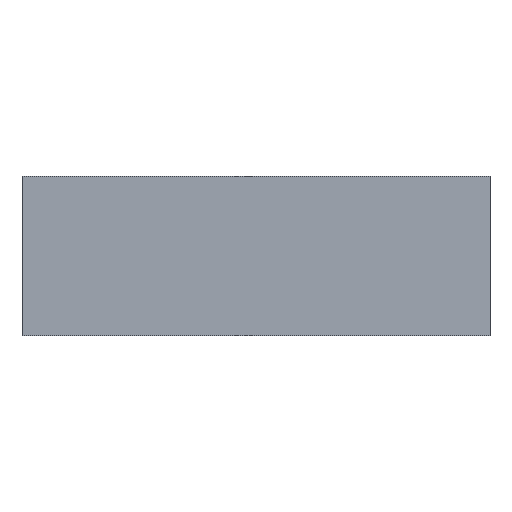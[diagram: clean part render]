
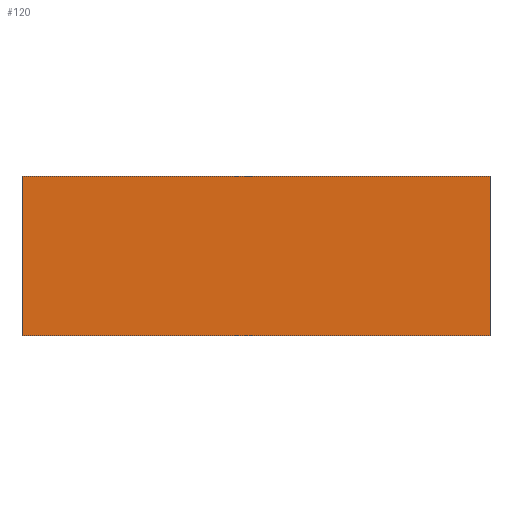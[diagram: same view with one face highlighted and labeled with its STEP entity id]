
A CAD part, front view. The second image highlights one B-rep face of the part: STEP entity #120.
In plain terms, the highlighted planar face has unit normal (0, -1, 0).
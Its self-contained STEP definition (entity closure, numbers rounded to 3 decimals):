
#18 = ORIENTED_EDGE ( 'NONE', *, *, #307, .T. ) ;
#34 = ORIENTED_EDGE ( 'NONE', *, *, #325, .T. ) ;
#39 = FACE_OUTER_BOUND ( 'NONE', #51, .T. ) ;
#50 = LINE ( 'NONE', #141, #292 ) ;
#51 = EDGE_LOOP ( 'NONE', ( #18, #56, #73, #34 ) ) ;
#56 = ORIENTED_EDGE ( 'NONE', *, *, #328, .F. ) ;
#73 = ORIENTED_EDGE ( 'NONE', *, *, #301, .F. ) ;
#97 = LINE ( 'NONE', #155, #102 ) ;
#102 = VECTOR ( 'NONE', #152, 1000. ) ;
#106 = LINE ( 'NONE', #149, #114 ) ;
#114 = VECTOR ( 'NONE', #146, 1000. ) ;
#120 = ADVANCED_FACE ( 'NONE', ( #39 ), #200, .F. ) ;
#129 = VERTEX_POINT ( 'NONE', #176 ) ;
#131 = VERTEX_POINT ( 'NONE', #179 ) ;
#133 = VERTEX_POINT ( 'NONE', #169 ) ;
#135 = DIRECTION ( 'NONE',  ( 0., 0., -1. ) ) ;
#137 = CARTESIAN_POINT ( 'NONE',  ( -176., 0., 120. ) ) ;
#141 = CARTESIAN_POINT ( 'NONE',  ( 176., 0., 120. ) ) ;
#146 = DIRECTION ( 'NONE',  ( 1., 0., 0. ) ) ;
#149 = CARTESIAN_POINT ( 'NONE',  ( -176., 0., 0. ) ) ;
#152 = DIRECTION ( 'NONE',  ( 1., 0., 0. ) ) ;
#155 = CARTESIAN_POINT ( 'NONE',  ( -176., 0., 120. ) ) ;
#162 = CARTESIAN_POINT ( 'NONE',  ( 176., 0., 120. ) ) ;
#169 = CARTESIAN_POINT ( 'NONE',  ( -176., 0., 120. ) ) ;
#176 = CARTESIAN_POINT ( 'NONE',  ( -176., 0., 0. ) ) ;
#179 = CARTESIAN_POINT ( 'NONE',  ( 176., 0., 0. ) ) ;
#189 = DIRECTION ( 'NONE',  ( -1., 0., 0. ) ) ;
#190 = DIRECTION ( 'NONE',  ( 0., 1., 0. ) ) ;
#199 = CARTESIAN_POINT ( 'NONE',  ( -176., 0., 120. ) ) ;
#200 = PLANE ( 'NONE',  #329 ) ;
#225 = DIRECTION ( 'NONE',  ( 0., 0., -1. ) ) ;
#232 = VERTEX_POINT ( 'NONE', #162 ) ;
#276 = LINE ( 'NONE', #137, #280 ) ;
#280 = VECTOR ( 'NONE', #135, 1000. ) ;
#292 = VECTOR ( 'NONE', #225, 1000. ) ;
#301 = EDGE_CURVE ( 'NONE', #133, #232, #97, .T. ) ;
#307 = EDGE_CURVE ( 'NONE', #129, #131, #106, .T. ) ;
#325 = EDGE_CURVE ( 'NONE', #133, #129, #276, .T. ) ;
#328 = EDGE_CURVE ( 'NONE', #232, #131, #50, .T. ) ;
#329 = AXIS2_PLACEMENT_3D ( 'NONE', #199, #190, #189 ) ;
